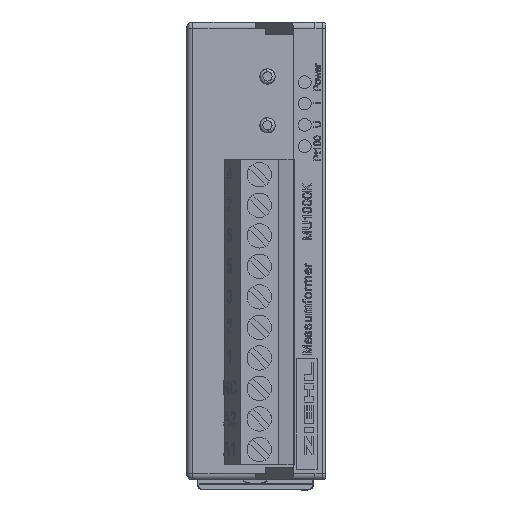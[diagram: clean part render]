
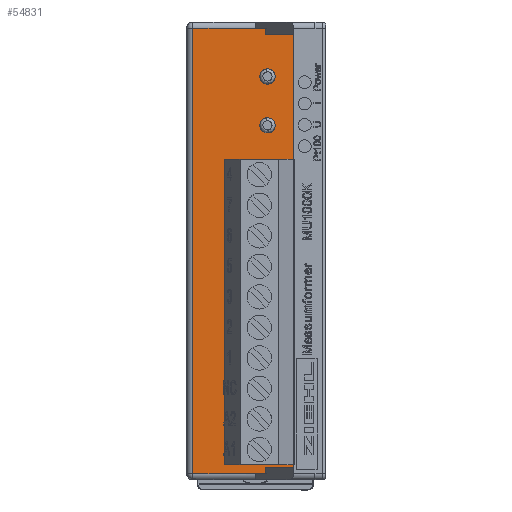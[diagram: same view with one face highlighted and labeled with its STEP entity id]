
A CAD part, left-side view. The second image highlights one B-rep face of the part: STEP entity #54831.
In plain terms, the highlighted planar face has unit normal (-1, 0, 0) as drawn and (1, 0, 0) by its records, which use the part's own axes.
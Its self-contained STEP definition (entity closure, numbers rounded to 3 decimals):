
#81 = ORIENTED_EDGE ( 'NONE', *, *, #42044, .F. ) ;
#2272 = ORIENTED_EDGE ( 'NONE', *, *, #13008, .F. ) ;
#8409 = VECTOR ( 'NONE', #41535, 1000. ) ;
#9410 = VECTOR ( 'NONE', #38620, 1000. ) ;
#10630 = DIRECTION ( 'NONE',  ( 0., 1., 0. ) ) ;
#10737 = VECTOR ( 'NONE', #12345, 1000. ) ;
#11238 = LINE ( 'NONE', #26943, #9410 ) ;
#12345 = DIRECTION ( 'NONE',  ( 0., 0., 1. ) ) ;
#13008 = EDGE_CURVE ( 'NONE', #63333, #51791, #56400, .T. ) ;
#16527 = ORIENTED_EDGE ( 'NONE', *, *, #18900, .F. ) ;
#17207 = CARTESIAN_POINT ( 'NONE',  ( 30., -14.3, 36.5 ) ) ;
#17246 = CARTESIAN_POINT ( 'NONE',  ( 30., 1.2, 37.5 ) ) ;
#17447 = CARTESIAN_POINT ( 'NONE',  ( 30., 0.2, 37.5 ) ) ;
#17879 = EDGE_CURVE ( 'NONE', #39271, #67036, #57707, .T. ) ;
#18763 = CARTESIAN_POINT ( 'NONE',  ( 30., -14.3, -35.5 ) ) ;
#18900 = EDGE_CURVE ( 'NONE', #42630, #39271, #48513, .T. ) ;
#19330 = CARTESIAN_POINT ( 'NONE',  ( 30., -14.3, 35.5 ) ) ;
#23398 = DIRECTION ( 'NONE',  ( -1., 0., 0. ) ) ;
#23905 = DIRECTION ( 'NONE',  ( 0., 0., 1. ) ) ;
#24742 = DIRECTION ( 'NONE',  ( 0., 1., 0. ) ) ;
#24876 = LINE ( 'NONE', #33857, #65772 ) ;
#25200 = DIRECTION ( 'NONE',  ( 0., 0., 1. ) ) ;
#25540 = VECTOR ( 'NONE', #26500, 1000. ) ;
#26500 = DIRECTION ( 'NONE',  ( 0., 1., 0. ) ) ;
#26898 = EDGE_CURVE ( 'NONE', #51791, #61500, #54566, .T. ) ;
#26943 = CARTESIAN_POINT ( 'NONE',  ( 30., 1.2, -36.5 ) ) ;
#27258 = VECTOR ( 'NONE', #25200, 1000. ) ;
#29813 = CARTESIAN_POINT ( 'NONE',  ( 30., -16.3, -36.5 ) ) ;
#31943 = VERTEX_POINT ( 'NONE', #33369 ) ;
#33075 = ORIENTED_EDGE ( 'NONE', *, *, #56475, .T. ) ;
#33369 = CARTESIAN_POINT ( 'NONE',  ( 30., 0.2, 36.5 ) ) ;
#33725 = EDGE_LOOP ( 'NONE', ( #33075, #72385, #81, #40132, #2272, #43300, #61377, #16527, #36827, #53646 ) ) ;
#33857 = CARTESIAN_POINT ( 'NONE',  ( 30., -16.3, 36.5 ) ) ;
#33886 = VECTOR ( 'NONE', #24742, 1000. ) ;
#35479 = CARTESIAN_POINT ( 'NONE',  ( 30., -14.3, -36.5 ) ) ;
#35533 = VECTOR ( 'NONE', #61507, 1000. ) ;
#35937 = VECTOR ( 'NONE', #53259, 1000. ) ;
#36646 = LINE ( 'NONE', #29813, #33886 ) ;
#36827 = ORIENTED_EDGE ( 'NONE', *, *, #71069, .T. ) ;
#36846 = CARTESIAN_POINT ( 'NONE',  ( 30., -16.3, -35.5 ) ) ;
#38620 = DIRECTION ( 'NONE',  ( 0., 1., 0. ) ) ;
#39271 = VERTEX_POINT ( 'NONE', #18763 ) ;
#40080 = LINE ( 'NONE', #73164, #35533 ) ;
#40132 = ORIENTED_EDGE ( 'NONE', *, *, #26898, .F. ) ;
#40475 = VERTEX_POINT ( 'NONE', #63268 ) ;
#41191 = VERTEX_POINT ( 'NONE', #58603 ) ;
#41535 = DIRECTION ( 'NONE',  ( 0., 0., 1. ) ) ;
#42044 = EDGE_CURVE ( 'NONE', #61500, #41191, #24876, .T. ) ;
#42630 = VERTEX_POINT ( 'NONE', #35479 ) ;
#42793 = VECTOR ( 'NONE', #73824, 1000. ) ;
#43300 = ORIENTED_EDGE ( 'NONE', *, *, #46933, .F. ) ;
#46933 = EDGE_CURVE ( 'NONE', #67036, #63333, #40080, .T. ) ;
#48012 = AXIS2_PLACEMENT_3D ( 'NONE', #17246, #23398, #23905 ) ;
#48513 = LINE ( 'NONE', #70682, #8409 ) ;
#51791 = VERTEX_POINT ( 'NONE', #69560 ) ;
#52971 = EDGE_CURVE ( 'NONE', #73996, #40475, #11238, .T. ) ;
#53259 = DIRECTION ( 'NONE',  ( 0., -1., 0. ) ) ;
#53646 = ORIENTED_EDGE ( 'NONE', *, *, #52971, .T. ) ;
#54566 = LINE ( 'NONE', #19330, #27258 ) ;
#54831 = ADVANCED_FACE ( 'NONE', ( #67407 ), #75156, .F. ) ;
#56400 = LINE ( 'NONE', #66412, #25540 ) ;
#56475 = EDGE_CURVE ( 'NONE', #40475, #31943, #72606, .T. ) ;
#57707 = LINE ( 'NONE', #64440, #35937 ) ;
#58603 = CARTESIAN_POINT ( 'NONE',  ( 30., -10.082, 36.5 ) ) ;
#61377 = ORIENTED_EDGE ( 'NONE', *, *, #17879, .F. ) ;
#61500 = VERTEX_POINT ( 'NONE', #17207 ) ;
#61507 = DIRECTION ( 'NONE',  ( 0., 0., 1. ) ) ;
#63268 = CARTESIAN_POINT ( 'NONE',  ( 30., 0.2, -36.5 ) ) ;
#63333 = VERTEX_POINT ( 'NONE', #65382 ) ;
#64203 = EDGE_CURVE ( 'NONE', #31943, #41191, #68178, .T. ) ;
#64225 = CARTESIAN_POINT ( 'NONE',  ( 30., -10.082, -36.5 ) ) ;
#64440 = CARTESIAN_POINT ( 'NONE',  ( 30., -16.3, -35.5 ) ) ;
#65382 = CARTESIAN_POINT ( 'NONE',  ( 30., -16.3, 35.5 ) ) ;
#65772 = VECTOR ( 'NONE', #10630, 1000. ) ;
#66412 = CARTESIAN_POINT ( 'NONE',  ( 30., -16.3, 35.5 ) ) ;
#67036 = VERTEX_POINT ( 'NONE', #36846 ) ;
#67407 = FACE_OUTER_BOUND ( 'NONE', #33725, .T. ) ;
#68012 = CARTESIAN_POINT ( 'NONE',  ( 30., 1.2, 36.5 ) ) ;
#68178 = LINE ( 'NONE', #68012, #42793 ) ;
#69560 = CARTESIAN_POINT ( 'NONE',  ( 30., -14.3, 35.5 ) ) ;
#70682 = CARTESIAN_POINT ( 'NONE',  ( 30., -14.3, -37.5 ) ) ;
#71069 = EDGE_CURVE ( 'NONE', #42630, #73996, #36646, .T. ) ;
#72385 = ORIENTED_EDGE ( 'NONE', *, *, #64203, .T. ) ;
#72606 = LINE ( 'NONE', #17447, #10737 ) ;
#73164 = CARTESIAN_POINT ( 'NONE',  ( 30., -16.3, 36.5 ) ) ;
#73824 = DIRECTION ( 'NONE',  ( 0., -1., 0. ) ) ;
#73996 = VERTEX_POINT ( 'NONE', #64225 ) ;
#75156 = PLANE ( 'NONE',  #48012 ) ;
